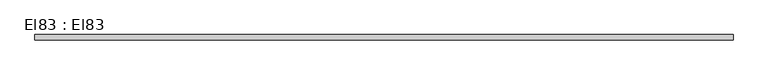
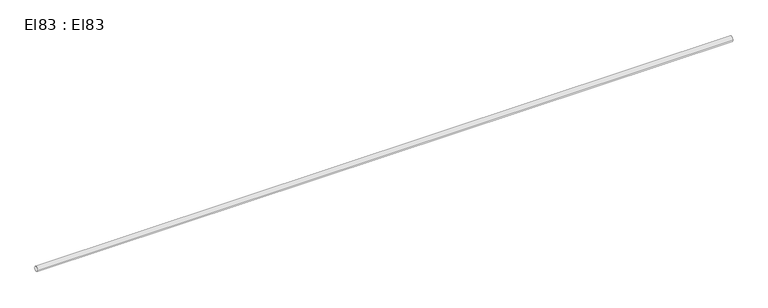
"""IFC4 building model written with IfcOpenShell, lengths in millimetres: cable carrier segment geometry, El83 : El83."""

from ifc_helpers import new_model, si_unit, point, frame, frame_2d, origin, place, context, project, spatial, circle_curve, trimmed, segment, composite_curve, outline, extrude, source, transform, mapped, element, save


def el83_el83_cb748939(model_context):
    return source(origin(), model_context, "Body", "SweptSolid", [
        extrude(outline(composite_curve([segment(trimmed(circle_curve(frame_2d((16514.6, 2950.0)), 9.5), [point((16505.1, 2950.0))], [point((16524.1, 2950.0))], False, "CARTESIAN"), True, "CONTINUOUS"), segment(trimmed(circle_curve(frame_2d((16514.6, 2950.0)), 9.5), [point((16524.1, 2950.0))], [point((16505.1, 2950.0))], False, "CARTESIAN"), True, "CONTINUOUS")], self_intersect=False)), frame((22393.6, 0.0, 0.0), z_axis=(1.0, 0.0, 0.0), x_axis=(0.0, 1.0, 0.0)), (0.0, 0.0, 1.0), 2525.0),
    ])


if __name__ == "__main__":
    model = new_model("IFC4")
    model_context = context("Model", 3, world=origin())
    ifc_project = project(units=[si_unit("LENGTHUNIT", "METRE", prefix="MILLI")], contexts=[model_context])
    site = spatial("IfcSite", under=ifc_project)
    building = spatial("IfcBuilding", under=site)
    placement = place(None, origin())
    el83_el83_shape = el83_el83_cb748939(model_context)
    element("IfcCableCarrierSegment", 1, ObjectType="El83 : El83", at=placement, inside=building, context=model_context, shape_type="MappedRepresentation", body=[
        mapped(el83_el83_shape, transform((0.0, 0.0, 0.0), x_axis=(1.0, 0.0, 0.0), y_axis=(0.0, 1.0, 0.0), z_axis=(0.0, 0.0, 1.0))),
    ])
    save(model, "model.ifc")
